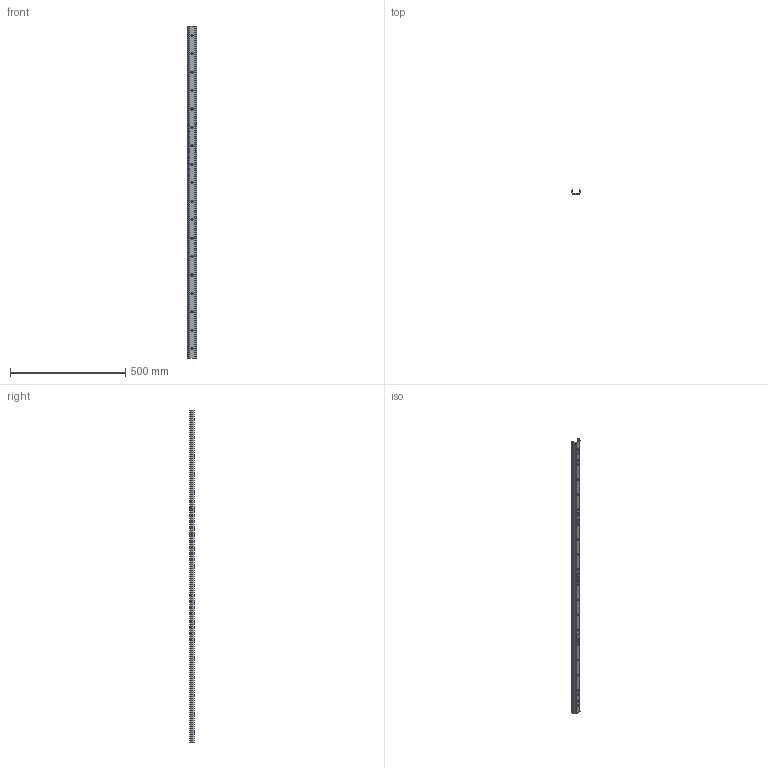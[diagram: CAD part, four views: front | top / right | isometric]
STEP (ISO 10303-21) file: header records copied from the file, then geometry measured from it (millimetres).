
FILE_DESCRIPTION(('STEP AP214'),'1');
FILE_NAME('rail_tex40-1440.stp','2019-03-08T08:33:17',('TraceParts'),('TraceParts S.A.'),'Spatial InterOp 3D',' ',' ');
FILE_SCHEMA(('automotive_design'));
Length unit declared in the file: millimetre
Products named in the file (1): rail_tex40-1440
Bounding box: 39.53 x 21 x 1440 mm (x, y, z)
Volume: 281530.8 mm3; surface area: 198511.6 mm2
Topology: 1 solids, 1 shells, 347 faces, 900 edges, 600 vertices
Faces by surface type: plane 244, bspline 55, cylinder 48
Entity records: 21793 total; most frequent: CARTESIAN_POINT 10683, ORIENTED_EDGE 1800, DIRECTION 1472, EDGE_CURVE 900, LINE 694, VECTOR 694, VERTEX_POINT 600, EDGE_LOOP 428
